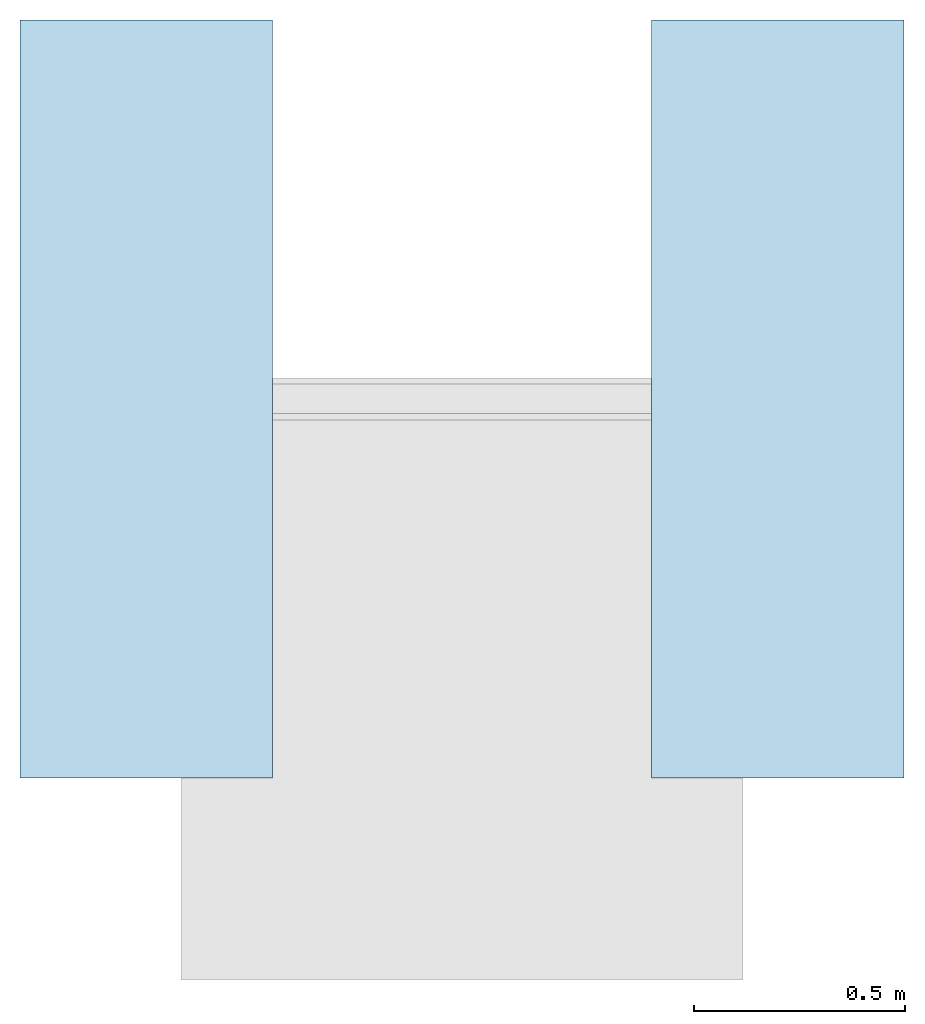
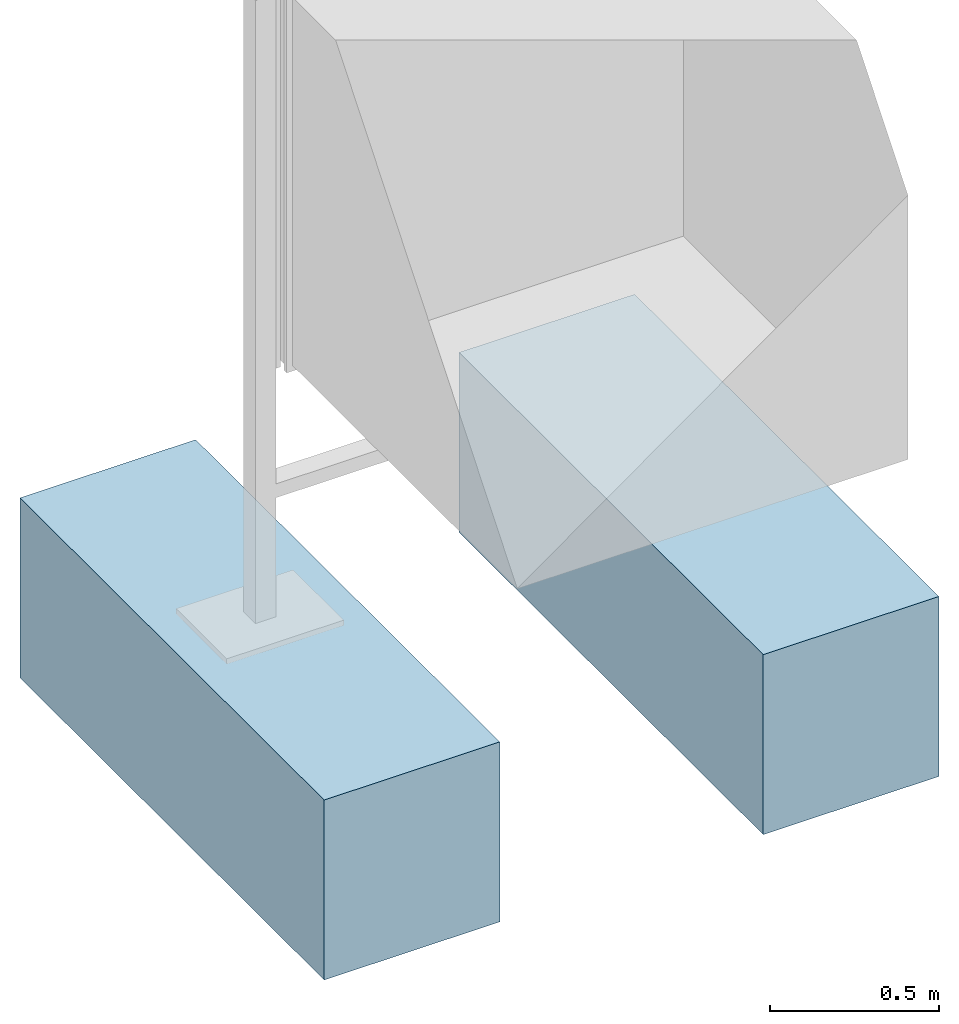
# One storey, incomplete: 2 slabs.
"""IFC4 building model written with IfcOpenShell, lengths in metres."""

from ifc_helpers import new_model, entity, si_unit, converted_unit, direction, frame, frame_2d, origin, origin_2d_with_axis, place, context, subcontext, project, spatial, rectangle, extrude, material, type_object, element, save


model = new_model("IFC4")

# Units and contexts
model_context = context("Model", 3, precision=1e-05, world=origin(), true_north=direction((6.123031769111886e-17, 1.0)))
body_context = subcontext(model_context, "Body", "Model", "MODEL_VIEW")
ifc_project = project(units=[si_unit("LENGTHUNIT", "METRE"), converted_unit("PLANEANGLEUNIT", "DEGREE", entity("IfcPlaneAngleMeasure", 0.017453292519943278), si_unit("PLANEANGLEUNIT", "RADIAN"), dimensions=[0, 0, 0, 0, 0, 0, 0]), si_unit("AREAUNIT", "SQUARE_METRE")], contexts=[model_context])

# Site, building, storey
site_placement = place(None, origin())
site = spatial("IfcSite", under=ifc_project, at=site_placement, Name="Default", CompositionType="ELEMENT")
building_placement = place(site_placement, origin())
building = spatial("IfcBuilding", under=site, at=building_placement, CompositionType="ELEMENT")
storey_placement = place(building_placement, origin())
storey = spatial("IfcBuildingStorey", under=building, at=storey_placement, Name="Ebene 0", CompositionType="ELEMENT", Elevation=0.0)

# Slabs
ifc_material = material(Name="DB_Ortbeton", Category="DB_Beton")
slab_type = type_object("IfcSlabType", Name="DB_Vitrine_Fundament:DB_Vitrine_Fundament", PredefinedType="BASESLAB", material=ifc_material)
slab_1_placement = place(storey_placement, origin())
element("IfcSlab", 1, at=slab_1_placement, inside=storey, type_object=slab_type, Name="DB_Vitrine_Fundament:DB_Vitrine_Fundament", ObjectType="DB_Vitrine_Fundament:DB_Vitrine_Fundament", PredefinedType="BASESLAB", context=body_context, shape_type="SweptSolid", body=[
    extrude(rectangle(XDim=1.8, YDim=0.5999999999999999, at=frame_2d((0.0, -8.326672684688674e-17), x_axis=(1.0, 0.0))), frame((1.5000000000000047, 0.0, 0.04999999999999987), z_axis=(0.0, 0.0, 1.0), x_axis=(0.0, 1.0, 0.0)), (0.0, 0.0, 1.0), 0.5999999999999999),
    extrude(rectangle(XDim=0.5999999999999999, YDim=1.7999999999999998, at=frame_2d((-1.3877787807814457e-16, 0.0), x_axis=(1.0, 0.0))), frame((1.5000000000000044, 0.0, 0.0), z_axis=(0.0, 0.0, 1.0), x_axis=(-1.0, 0.0, 0.0)), (0.0, 0.0, 1.0), 0.04999999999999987),
])
slab_2_placement = place(storey_placement, origin())
element("IfcSlab", 2, at=slab_2_placement, inside=storey, type_object=slab_type, Name="DB_Vitrine_Fundament:DB_Vitrine_Fundament", ObjectType="DB_Vitrine_Fundament:DB_Vitrine_Fundament", PredefinedType="BASESLAB", context=body_context, shape_type="SweptSolid", body=[
    extrude(rectangle(XDim=1.8, YDim=0.5999999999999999, at=origin_2d_with_axis()), frame((0.0, 0.0, 0.05000000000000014), z_axis=(0.0, 0.0, 1.0), x_axis=(0.0, 1.0, 0.0)), (0.0, 0.0, 1.0), 0.5999999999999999),
    extrude(rectangle(XDim=0.5999999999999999, YDim=1.7999999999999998, at=origin_2d_with_axis()), frame((0.0, 0.0, 0.0), z_axis=(0.0, 0.0, 1.0), x_axis=(-1.0, 0.0, 0.0)), (0.0, 0.0, 1.0), 0.04999999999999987),
])

save(model, "model.ifc")
